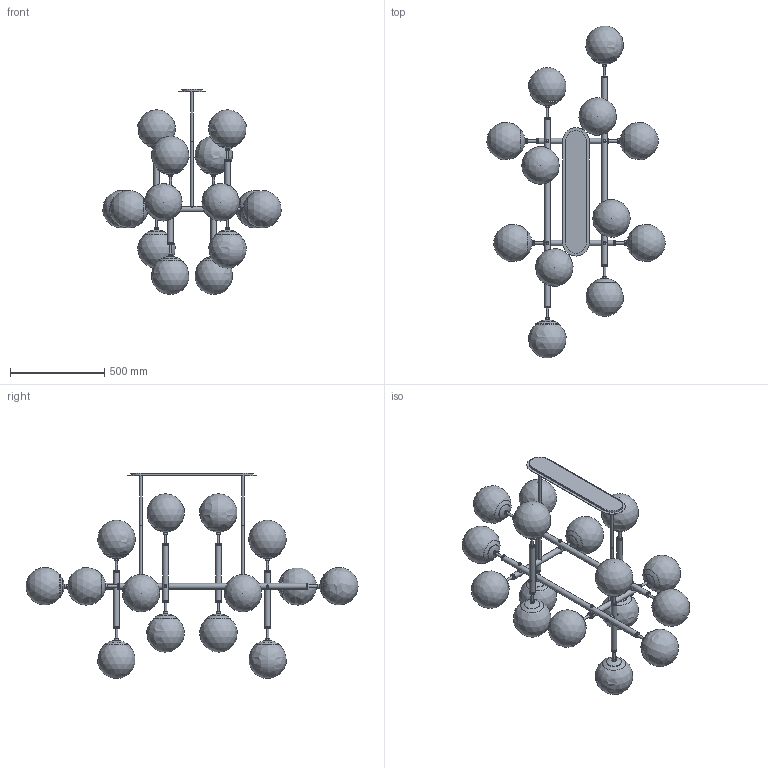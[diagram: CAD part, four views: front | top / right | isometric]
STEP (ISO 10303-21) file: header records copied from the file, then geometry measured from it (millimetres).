
FILE_DESCRIPTION(/* description */ (''),/* implementation_level */ '2;1');
FILE_NAME(/* name */ 'T:\B303 Globe Riegel 67''''\Pliki bryłowe handlowe\B303 Riegel 3D files_na stronę\B303 Riegel.stp',/* time_stamp */ '2022-02-02T15:41:23+01:00',/* author */ ('Mariusz Awariusz'),/* organization */ (''),/* preprocessor_version */ 'ST-DEVELOPER v18.1',/* originating_system */ 'Autodesk Inventor 2022',/* authorisation */ '');
FILE_SCHEMA (('AUTOMOTIVE_DESIGN { 1 0 10303 214 3 1 1 }'));
Length unit declared in the file: millimetre
Products named in the file (1): B303 Globe Riegel 67'' CE v2_na potrzeby plików 3D_2_jako część_
korpusy bryłowe
Bounding box: 945.06 x 1758.06 x 1085.95 mm (x, y, z)
Volume: 8193060 mm3; surface area: 5149958.1 mm2
Topology: 134 solids, 134 shells, 1106 faces, 2108 edges, 1354 vertices
Faces by surface type: plane 484, cylinder 284, cone 226, sphere 48, torus 32, bspline 32
Full cylindrical faces by diameter (mm): 11.6 x34, 13 x70, 14.7 x16, 16 x32, 22 x16, 25 x8, 26 x16, 27 x16, 30 x24, 80.221 x16
Entity records: 30034 total; most frequent: CARTESIAN_POINT 7681, DIRECTION 4932, ORIENTED_EDGE 4120, AXIS2_PLACEMENT_3D 2077, EDGE_CURVE 2060, VERTEX_POINT 1354, EDGE_LOOP 1270, FACE_OUTER_BOUND 1106
